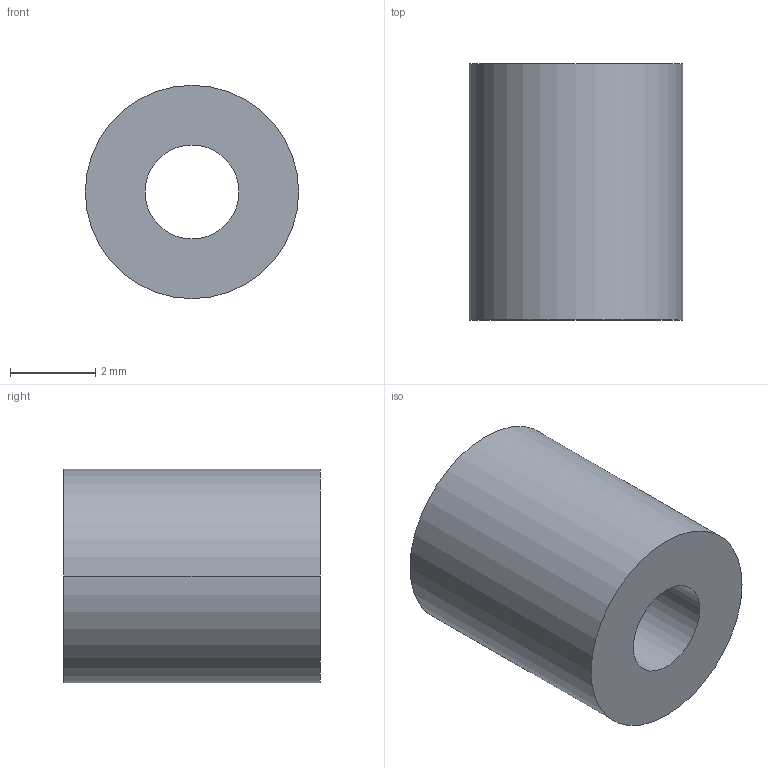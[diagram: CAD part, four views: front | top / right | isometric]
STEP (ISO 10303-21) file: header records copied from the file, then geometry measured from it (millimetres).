
FILE_DESCRIPTION (( 'STEP AP203' ), '1' );
FILE_NAME ('30800.WPP5A2.2.step', '2019-01-23T22:16:27', ( '' ), ( '' ), 'SwSTEP 2.0', 'SolidWorks 2017', '' );
FILE_SCHEMA (( 'CONFIG_CONTROL_DESIGN' ));
Length unit declared in the file: millimetre
Products named in the file (1): 30800.WPP5A2.2
Bounding box: 5 x 6 x 5 mm (x, y, z)
Volume: 93.2 mm3; surface area: 164.9 mm2
Topology: 1 solids, 1 shells, 8 faces, 16 edges, 10 vertices
Faces by surface type: cylinder 4, torus 2, plane 2
Entity records: 297 total; most frequent: DIRECTION 46, CARTESIAN_POINT 35, ORIENTED_EDGE 32, AXIS2_PLACEMENT_3D 21, EDGE_CURVE 16, CIRCLE 12, VERTEX_POINT 10, EDGE_LOOP 10
